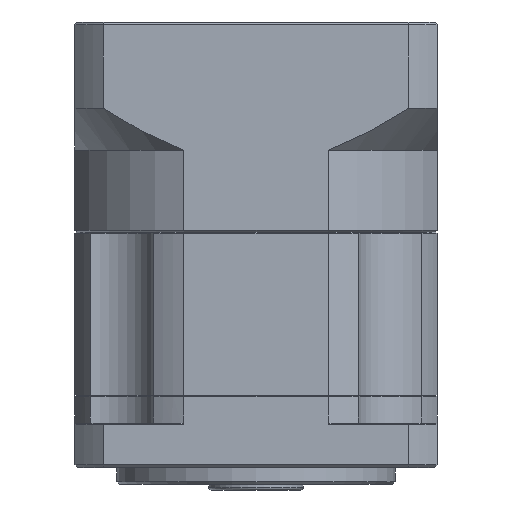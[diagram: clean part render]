
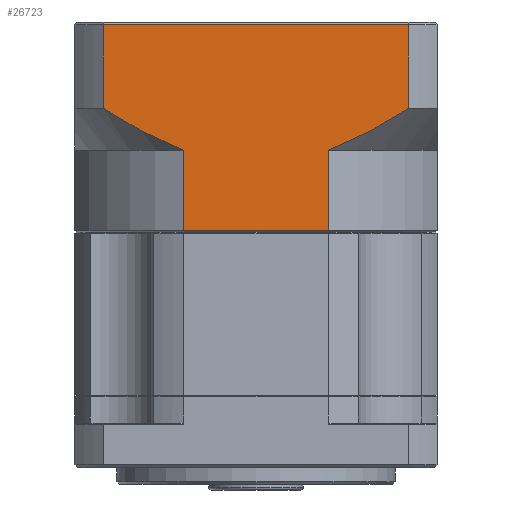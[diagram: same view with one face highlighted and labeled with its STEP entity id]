
A CAD part, front view. The second image highlights one B-rep face of the part: STEP entity #26723.
In plain terms, the highlighted planar face has unit normal (0, -1, 0).
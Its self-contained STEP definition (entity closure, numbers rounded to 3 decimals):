
#1046 = DIRECTION ( 'NONE',  ( 0., 0., -1. ) ) ;
#1415 = CARTESIAN_POINT ( 'NONE',  ( -56.294, -2.59, -16.078 ) ) ;
#2925 = EDGE_CURVE ( 'NONE', #62913, #75596, #68889, .T. ) ;
#4242 = DIRECTION ( 'NONE',  ( 0., 0., 1. ) ) ;
#6862 = VERTEX_POINT ( 'NONE', #80692 ) ;
#6946 = PLANE ( 'NONE',  #118664 ) ;
#7934 = LINE ( 'NONE', #74555, #89399 ) ;
#9293 = LINE ( 'NONE', #110962, #10708 ) ;
#9561 = ORIENTED_EDGE ( 'NONE', *, *, #84245, .F. ) ;
#9746 = DIRECTION ( 'NONE',  ( -1., 0., 0. ) ) ;
#10708 = VECTOR ( 'NONE', #93572, 1000. ) ;
#11223 = EDGE_CURVE ( 'NONE', #50535, #6862, #36213, .T. ) ;
#12273 = LINE ( 'NONE', #116249, #41201 ) ;
#12345 = FACE_OUTER_BOUND ( 'NONE', #56630, .T. ) ;
#13161 = CARTESIAN_POINT ( 'NONE',  ( -27.771, -2.59, -17.094 ) ) ;
#13740 = ORIENTED_EDGE ( 'NONE', *, *, #79027, .F. ) ;
#24293 = CARTESIAN_POINT ( 'NONE',  ( -14.514, -2.59, -10.328 ) ) ;
#25102 = ORIENTED_EDGE ( 'NONE', *, *, #31433, .T. ) ;
#25481 = LINE ( 'NONE', #13161, #75096 ) ;
#26215 = VECTOR ( 'NONE', #1046, 1000. ) ;
#26723 = ADVANCED_FACE ( 'NONE', ( #12345 ), #6946, .F. ) ;
#28008 = CARTESIAN_POINT ( 'NONE',  ( -65.878, -2.59, -11.057 ) ) ;
#30679 = VERTEX_POINT ( 'NONE', #106364 ) ;
#31433 = EDGE_CURVE ( 'NONE', #104372, #33163, #7934, .T. ) ;
#32183 = EDGE_CURVE ( 'NONE', #64061, #30679, #48199, .T. ) ;
#33163 = VERTEX_POINT ( 'NONE', #102001 ) ;
#33238 = CARTESIAN_POINT ( 'NONE',  ( -13.375, -2.59, -9.594 ) ) ;
#36213 = B_SPLINE_CURVE_WITH_KNOTS ( 'NONE', 3,
 ( #57354, #65114, #56962, #1415, #93216, #38203, #74933, #85178, #28008, #94393 ),
 .UNSPECIFIED., .F., .F.,
 ( 4, 2, 2, 2, 4 ),
 ( 0.101, 0.104, 0.106, 0.11, 0.118 ),
 .UNSPECIFIED. ) ;
#38202 = DIRECTION ( 'NONE',  ( -1., 0., 0. ) ) ;
#38203 = CARTESIAN_POINT ( 'NONE',  ( -58.771, -2.59, -14.954 ) ) ;
#41201 = VECTOR ( 'NONE', #4242, 1000. ) ;
#45828 = ORIENTED_EDGE ( 'NONE', *, *, #96759, .F. ) ;
#48199 = LINE ( 'NONE', #113967, #49597 ) ;
#49597 = VECTOR ( 'NONE', #57907, 1000. ) ;
#50535 = VERTEX_POINT ( 'NONE', #58897 ) ;
#51191 = CARTESIAN_POINT ( 'NONE',  ( -18.001, -2.59, -12.428 ) ) ;
#56630 = EDGE_LOOP ( 'NONE', ( #103978, #25102, #45828, #77025, #13740, #72206, #9561, #86527 ) ) ;
#56962 = CARTESIAN_POINT ( 'NONE',  ( -55.033, -2.59, -16.604 ) ) ;
#57354 = CARTESIAN_POINT ( 'NONE',  ( -53.752, -2.59, -17.094 ) ) ;
#57907 = DIRECTION ( 'NONE',  ( 1., 0., 0. ) ) ;
#58897 = CARTESIAN_POINT ( 'NONE',  ( -53.752, -2.59, -17.094 ) ) ;
#59867 = DIRECTION ( 'NONE',  ( 0., 0., -1. ) ) ;
#61420 = CARTESIAN_POINT ( 'NONE',  ( -25.232, -2.59, -16.152 ) ) ;
#62913 = VERTEX_POINT ( 'NONE', #82753 ) ;
#64061 = VERTEX_POINT ( 'NONE', #108975 ) ;
#65114 = CARTESIAN_POINT ( 'NONE',  ( -54.394, -2.59, -16.856 ) ) ;
#68889 = B_SPLINE_CURVE_WITH_KNOTS ( 'NONE', 3,
 ( #33238, #24293, #107269, #51191, #107685, #89145, #61420, #98399 ),
 .UNSPECIFIED., .F., .F.,
 ( 4, 2, 2, 4 ),
 ( 0.059, 0.063, 0.067, 0.075 ),
 .UNSPECIFIED. ) ;
#72206 = ORIENTED_EDGE ( 'NONE', *, *, #32183, .T. ) ;
#74555 = CARTESIAN_POINT ( 'NONE',  ( -68.147, -2.59, 5.406 ) ) ;
#74933 = CARTESIAN_POINT ( 'NONE',  ( -59.983, -2.59, -14.349 ) ) ;
#75096 = VECTOR ( 'NONE', #59867, 1000. ) ;
#75596 = VERTEX_POINT ( 'NONE', #75844 ) ;
#75844 = CARTESIAN_POINT ( 'NONE',  ( -27.771, -2.59, -17.094 ) ) ;
#77025 = ORIENTED_EDGE ( 'NONE', *, *, #11223, .F. ) ;
#79027 = EDGE_CURVE ( 'NONE', #64061, #50535, #9293, .T. ) ;
#80692 = CARTESIAN_POINT ( 'NONE',  ( -68.147, -2.59, -9.594 ) ) ;
#81614 = CARTESIAN_POINT ( 'NONE',  ( -13.375, -2.59, 5.406 ) ) ;
#82753 = CARTESIAN_POINT ( 'NONE',  ( -13.375, -2.59, -9.594 ) ) ;
#84245 = EDGE_CURVE ( 'NONE', #75596, #30679, #25481, .T. ) ;
#85178 = CARTESIAN_POINT ( 'NONE',  ( -63.564, -2.59, -12.445 ) ) ;
#86527 = ORIENTED_EDGE ( 'NONE', *, *, #2925, .F. ) ;
#89145 = CARTESIAN_POINT ( 'NONE',  ( -22.78, -2.59, -15.008 ) ) ;
#89399 = VECTOR ( 'NONE', #38202, 1000. ) ;
#93216 = CARTESIAN_POINT ( 'NONE',  ( -56.917, -2.59, -15.804 ) ) ;
#93572 = DIRECTION ( 'NONE',  ( 0., 0., 1. ) ) ;
#94393 = CARTESIAN_POINT ( 'NONE',  ( -68.147, -2.59, -9.594 ) ) ;
#96759 = EDGE_CURVE ( 'NONE', #6862, #33163, #12273, .T. ) ;
#98399 = CARTESIAN_POINT ( 'NONE',  ( -27.771, -2.59, -17.094 ) ) ;
#102001 = CARTESIAN_POINT ( 'NONE',  ( -68.147, -2.59, 5.406 ) ) ;
#102342 = DIRECTION ( 'NONE',  ( 0., 1., 0. ) ) ;
#102498 = CARTESIAN_POINT ( 'NONE',  ( -13.375, -2.59, -12.094 ) ) ;
#103978 = ORIENTED_EDGE ( 'NONE', *, *, #108149, .F. ) ;
#104372 = VERTEX_POINT ( 'NONE', #81614 ) ;
#106364 = CARTESIAN_POINT ( 'NONE',  ( -27.771, -2.59, -31.506 ) ) ;
#107269 = CARTESIAN_POINT ( 'NONE',  ( -15.665, -2.59, -11.043 ) ) ;
#107685 = CARTESIAN_POINT ( 'NONE',  ( -19.186, -2.59, -13.098 ) ) ;
#108149 = EDGE_CURVE ( 'NONE', #104372, #62913, #112138, .T. ) ;
#108975 = CARTESIAN_POINT ( 'NONE',  ( -53.752, -2.59, -31.506 ) ) ;
#110962 = CARTESIAN_POINT ( 'NONE',  ( -53.752, -2.59, -17.094 ) ) ;
#111261 = CARTESIAN_POINT ( 'NONE',  ( -8.261, -2.59, 5.906 ) ) ;
#112138 = LINE ( 'NONE', #102498, #26215 ) ;
#113967 = CARTESIAN_POINT ( 'NONE',  ( -8.261, -2.59, -31.506 ) ) ;
#116249 = CARTESIAN_POINT ( 'NONE',  ( -68.147, -2.59, -12.094 ) ) ;
#118664 = AXIS2_PLACEMENT_3D ( 'NONE', #111261, #102342, #9746 ) ;
